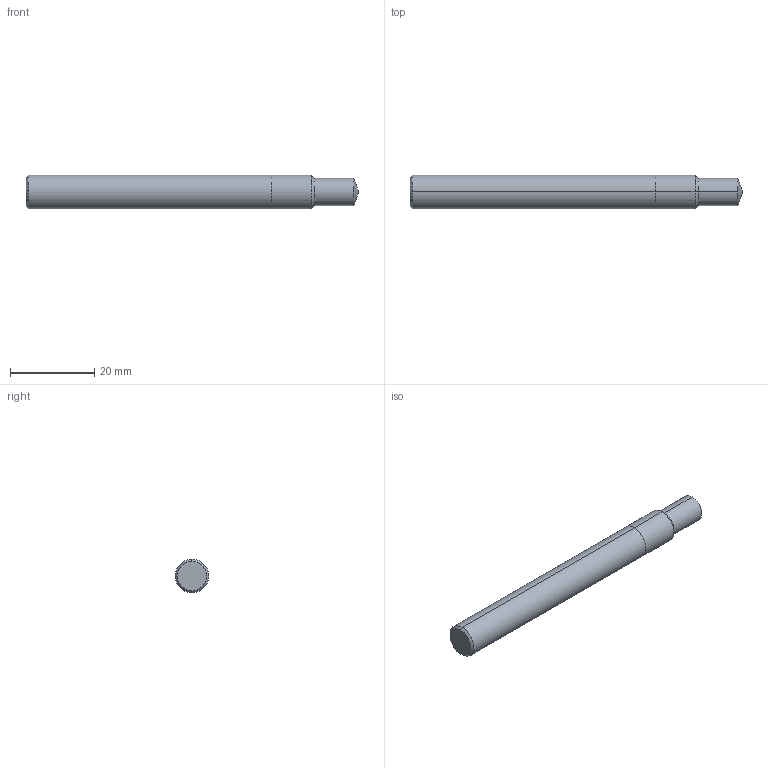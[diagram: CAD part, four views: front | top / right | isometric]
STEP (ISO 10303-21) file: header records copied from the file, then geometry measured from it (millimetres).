
FILE_DESCRIPTION (( 'STEP AP203' ), '1' );
FILE_NAME ('407024-RD-SAE-02A.STEP', '2024-10-02T16:37:58', ( '' ), ( '' ), 'SwSTEP 2.0', 'SolidWorks 2024', '' );
FILE_SCHEMA (( 'CONFIG_CONTROL_DESIGN' ));
Length unit declared in the file: inch
Products named in the file (1): 407024-RD-SAE-02A
Bounding box: 79 x 8 x 8 mm (x, y, z)
Volume: 3760.2 mm3; surface area: 1997.9 mm2
Topology: 1 solids, 1 shells, 16 faces, 30 edges, 16 vertices
Faces by surface type: cone 8, cylinder 6, plane 2
Entity records: 473 total; most frequent: DIRECTION 80, CARTESIAN_POINT 63, ORIENTED_EDGE 60, AXIS2_PLACEMENT_3D 33, EDGE_CURVE 30, VERTEX_POINT 16, FACE_OUTER_BOUND 16, ADVANCED_FACE 16
